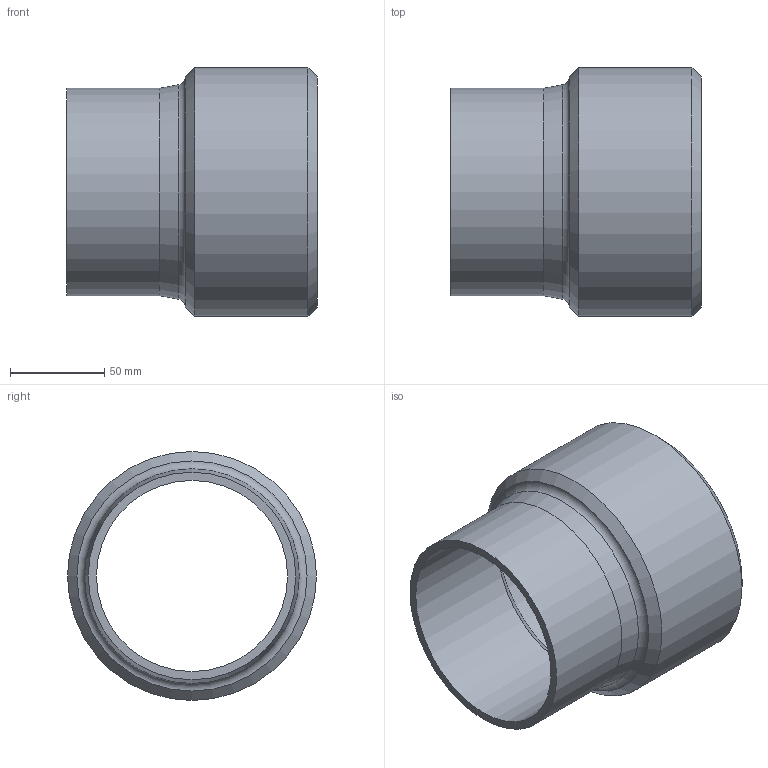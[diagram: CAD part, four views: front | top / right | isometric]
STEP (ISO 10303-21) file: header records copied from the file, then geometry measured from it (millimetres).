
FILE_DESCRIPTION(/* description */ (''),/* implementation_level */ '2;1');
FILE_NAME(/* name */ 'Z:\Geberit\Export\NewStep\359226.stp',/* time_stamp */ '2014-04-01T20:55:05+02:00',/* author */ ('ML'),/* organization */ (''),/* preprocessor_version */ 'ST-DEVELOPER v15.2',/* originating_system */ 'Autodesk Inventor 2014',/* authorisation */ '');
FILE_SCHEMA (('AUTOMOTIVE_DESIGN { 1 0 10303 214 3 1 1 }'));
Length unit declared in the file: millimetre
Products named in the file (1): 359226
Bounding box: 133 x 132 x 132 mm (x, y, z)
Volume: 334340.2 mm3; surface area: 102231.4 mm2
Topology: 1 solids, 1 shells, 11 faces, 20 edges, 11 vertices
Faces by surface type: cylinder 4, cone 4, plane 2, torus 1
Full cylindrical faces by diameter (mm): 101.4 x1, 110 x1, 114 x1, 132 x1
Entity records: 260 total; most frequent: DIRECTION 46, CARTESIAN_POINT 34, AXIS2_PLACEMENT_3D 23, EDGE_LOOP 22, ORIENTED_EDGE 22, FACE_BOUND 12, STYLED_ITEM 12, CIRCLE 11
